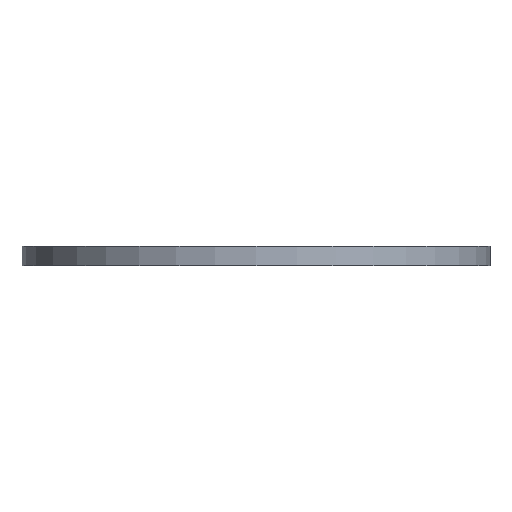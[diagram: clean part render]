
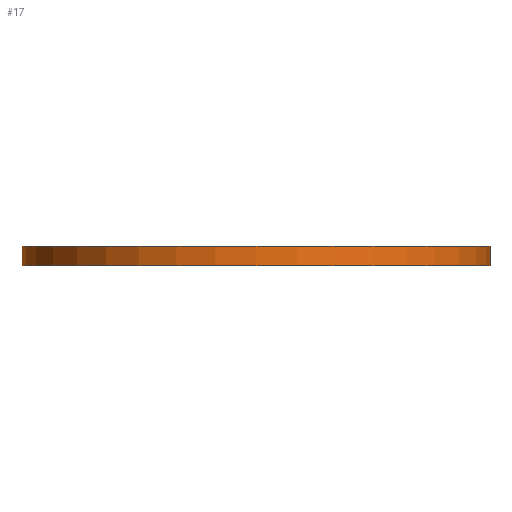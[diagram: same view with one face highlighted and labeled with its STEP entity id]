
A CAD part, front view. The second image highlights one B-rep face of the part: STEP entity #17.
In plain terms, the highlighted cylindrical face has radius 360 mm (diameter 720 mm), a full revolution.
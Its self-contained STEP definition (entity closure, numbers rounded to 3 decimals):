
#17 = ADVANCED_FACE('',(#18),#32,.T.);
#18 = FACE_BOUND('',#19,.F.);
#19 = EDGE_LOOP('',(#20,#50,#77,#78));
#20 = ORIENTED_EDGE('',*,*,#21,.T.);
#21 = EDGE_CURVE('',#22,#24,#26,.T.);
#22 = VERTEX_POINT('',#23);
#23 = CARTESIAN_POINT('',(360.,0.,-52.));
#24 = VERTEX_POINT('',#25);
#25 = CARTESIAN_POINT('',(360.,0.,-22.));
#26 = SEAM_CURVE('',#27,(#31,#43),.PCURVE_S1.);
#27 = LINE('',#28,#29);
#28 = CARTESIAN_POINT('',(360.,0.,-52.));
#29 = VECTOR('',#30,1.);
#30 = DIRECTION('',(0.,0.,1.));
#31 = PCURVE('',#32,#37);
#32 = CYLINDRICAL_SURFACE('',#33,360.);
#33 = AXIS2_PLACEMENT_3D('',#34,#35,#36);
#34 = CARTESIAN_POINT('',(0.,0.,-52.));
#35 = DIRECTION('',(-0.,-0.,-1.));
#36 = DIRECTION('',(1.,0.,0.));
#37 = DEFINITIONAL_REPRESENTATION('',(#38),#42);
#38 = LINE('',#39,#40);
#39 = CARTESIAN_POINT('',(-0.,0.));
#40 = VECTOR('',#41,1.);
#41 = DIRECTION('',(-0.,-1.));
#42 = ( GEOMETRIC_REPRESENTATION_CONTEXT(2) 
PARAMETRIC_REPRESENTATION_CONTEXT() REPRESENTATION_CONTEXT('2D SPACE',''
  ) );
#43 = PCURVE('',#32,#44);
#44 = DEFINITIONAL_REPRESENTATION('',(#45),#49);
#45 = LINE('',#46,#47);
#46 = CARTESIAN_POINT('',(-6.283,0.));
#47 = VECTOR('',#48,1.);
#48 = DIRECTION('',(-0.,-1.));
#49 = ( GEOMETRIC_REPRESENTATION_CONTEXT(2) 
PARAMETRIC_REPRESENTATION_CONTEXT() REPRESENTATION_CONTEXT('2D SPACE',''
  ) );
#50 = ORIENTED_EDGE('',*,*,#51,.T.);
#51 = EDGE_CURVE('',#24,#24,#52,.T.);
#52 = SURFACE_CURVE('',#53,(#58,#65),.PCURVE_S1.);
#53 = CIRCLE('',#54,360.);
#54 = AXIS2_PLACEMENT_3D('',#55,#56,#57);
#55 = CARTESIAN_POINT('',(0.,0.,-22.));
#56 = DIRECTION('',(0.,0.,1.));
#57 = DIRECTION('',(1.,0.,0.));
#58 = PCURVE('',#32,#59);
#59 = DEFINITIONAL_REPRESENTATION('',(#60),#64);
#60 = LINE('',#61,#62);
#61 = CARTESIAN_POINT('',(-0.,-30.));
#62 = VECTOR('',#63,1.);
#63 = DIRECTION('',(-1.,0.));
#64 = ( GEOMETRIC_REPRESENTATION_CONTEXT(2) 
PARAMETRIC_REPRESENTATION_CONTEXT() REPRESENTATION_CONTEXT('2D SPACE',''
  ) );
#65 = PCURVE('',#66,#71);
#66 = PLANE('',#67);
#67 = AXIS2_PLACEMENT_3D('',#68,#69,#70);
#68 = CARTESIAN_POINT('',(0.,0.,-22.));
#69 = DIRECTION('',(0.,0.,1.));
#70 = DIRECTION('',(1.,0.,-0.));
#71 = DEFINITIONAL_REPRESENTATION('',(#72),#76);
#72 = CIRCLE('',#73,360.);
#73 = AXIS2_PLACEMENT_2D('',#74,#75);
#74 = CARTESIAN_POINT('',(0.,0.));
#75 = DIRECTION('',(1.,0.));
#76 = ( GEOMETRIC_REPRESENTATION_CONTEXT(2) 
PARAMETRIC_REPRESENTATION_CONTEXT() REPRESENTATION_CONTEXT('2D SPACE',''
  ) );
#77 = ORIENTED_EDGE('',*,*,#21,.F.);
#78 = ORIENTED_EDGE('',*,*,#79,.F.);
#79 = EDGE_CURVE('',#22,#22,#80,.T.);
#80 = SURFACE_CURVE('',#81,(#86,#93),.PCURVE_S1.);
#81 = CIRCLE('',#82,360.);
#82 = AXIS2_PLACEMENT_3D('',#83,#84,#85);
#83 = CARTESIAN_POINT('',(0.,0.,-52.));
#84 = DIRECTION('',(0.,0.,1.));
#85 = DIRECTION('',(1.,0.,0.));
#86 = PCURVE('',#32,#87);
#87 = DEFINITIONAL_REPRESENTATION('',(#88),#92);
#88 = LINE('',#89,#90);
#89 = CARTESIAN_POINT('',(-0.,0.));
#90 = VECTOR('',#91,1.);
#91 = DIRECTION('',(-1.,0.));
#92 = ( GEOMETRIC_REPRESENTATION_CONTEXT(2) 
PARAMETRIC_REPRESENTATION_CONTEXT() REPRESENTATION_CONTEXT('2D SPACE',''
  ) );
#93 = PCURVE('',#94,#99);
#94 = PLANE('',#95);
#95 = AXIS2_PLACEMENT_3D('',#96,#97,#98);
#96 = CARTESIAN_POINT('',(0.,0.,-52.));
#97 = DIRECTION('',(0.,0.,1.));
#98 = DIRECTION('',(1.,0.,-0.));
#99 = DEFINITIONAL_REPRESENTATION('',(#100),#104);
#100 = CIRCLE('',#101,360.);
#101 = AXIS2_PLACEMENT_2D('',#102,#103);
#102 = CARTESIAN_POINT('',(0.,0.));
#103 = DIRECTION('',(1.,0.));
#104 = ( GEOMETRIC_REPRESENTATION_CONTEXT(2) 
PARAMETRIC_REPRESENTATION_CONTEXT() REPRESENTATION_CONTEXT('2D SPACE',''
  ) );
